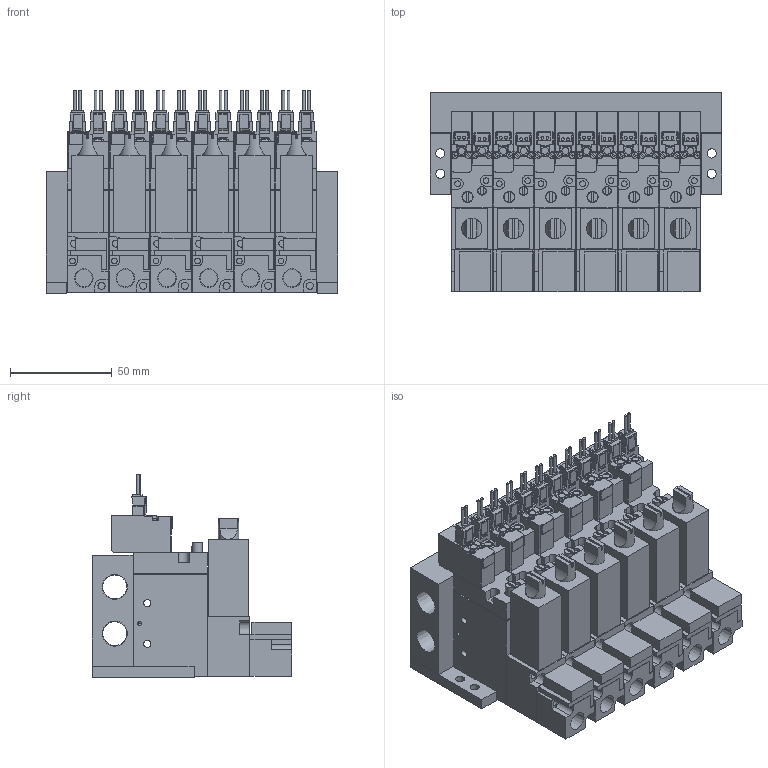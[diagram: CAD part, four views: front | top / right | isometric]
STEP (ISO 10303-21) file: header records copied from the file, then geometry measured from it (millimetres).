
FILE_DESCRIPTION(('STEP AP203'),'1');
FILE_NAME('BMPV32M2NZ25AL606.stp','2025-06-17T01:17:22',(' '),(' '),'Spatial InterOp 3D',' ',' ');
FILE_SCHEMA(('CONFIG_CONTROL_DESIGN'));
Length unit declared in the file: millimetre
Products named in the file (76): BMPV32M2NZ25AL606; S____; ___ ___2; ___-2(Rc); Filter Assy; __; _____; BMPV32 MB06; MB BRACKET; ___; upper plate-A; ______; ____; VACUUM VALVE FUNCTION MPV42-A; UV280-4E
Assembly tree (75 placements, depth 2):
  BMPV32M2NZ25AL606
    S____
    ___ ___2
    ___-2(Rc)
    Filter Assy
    __
    _____
    S____
    ___ ___2
    ___-2(Rc)
    Filter Assy
    __
    _____
    S____
    ___ ___2
    ___-2(Rc)
    Filter Assy
    __
    _____
    S____
    ___ ___2
    ___-2(Rc)
    Filter Assy
    __
    _____
    S____
    ___ ___2
    ___-2(Rc)
    Filter Assy
    __
    _____
    BMPV32 MB06
    MB BRACKET
    MB BRACKET
    S____
    ___ ___2
    ___-2(Rc)
    Filter Assy
    __
    _____
    ___
    upper plate-A
    ______
    ____
    VACUUM VALVE FUNCTION MPV42-A
    ___
    upper plate-A
    ______
    ____
    VACUUM VALVE FUNCTION MPV42-A
    ___
    upper plate-A
    ______
    ____
    VACUUM VALVE FUNCTION MPV42-A
    ___
    upper plate-A
    ______
    ____
    VACUUM VALVE FUNCTION MPV42-A
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Bounding box: 143.5 x 98 x 99.75 mm (x, y, z)
Volume: 645233.3 mm3; surface area: 219695.9 mm2
Topology: 75 solids, 75 shells, 2201 faces, 5776 edges, 3826 vertices
Faces by surface type: plane 1785, cylinder 372, cone 44
Full cylindrical faces by diameter (mm): 1.4 x24, 1.8 x12, 2 x12, 2.5 x16, 2.8 x24, 3 x24, 3.5 x64, 4 x6, 4.2 x6, 4.5 x4, 5 x6, 5.5 x6, 6.5 x6, 8.522 x6, 11.776 x2
Entity records: 69636 total; most frequent: CARTESIAN_POINT 11901, DIRECTION 10884, ORIENTED_EDGE 10828, EDGE_CURVE 5414, LINE 4450, VECTOR 4450, VERTEX_POINT 3766, AXIS2_PLACEMENT_3D 3217
